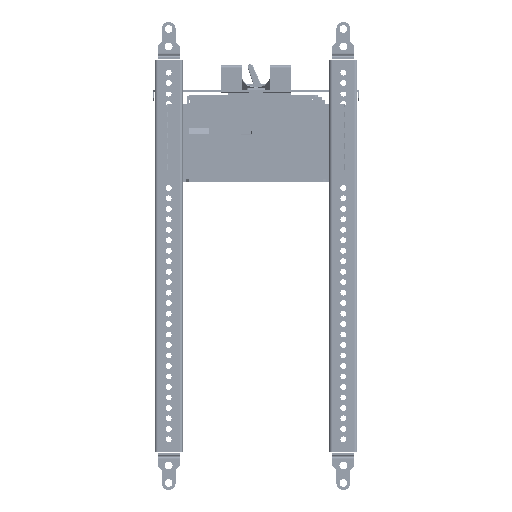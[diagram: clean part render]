
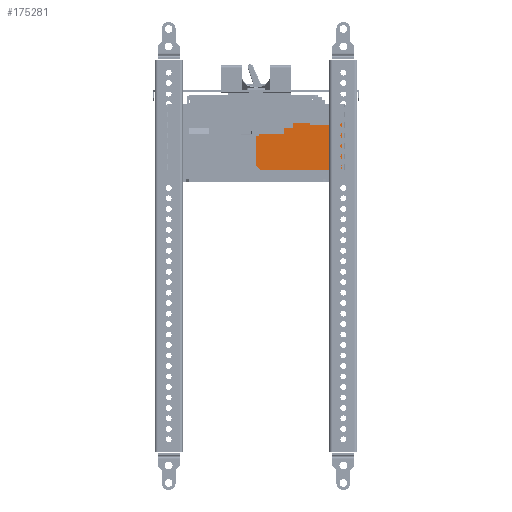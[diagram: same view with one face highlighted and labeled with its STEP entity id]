
A CAD part, left-side view. The second image highlights one B-rep face of the part: STEP entity #175281.
In plain terms, the highlighted planar face has unit normal (-1, 0, 0).
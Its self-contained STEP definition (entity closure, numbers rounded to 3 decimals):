
#144971=CARTESIAN_POINT(' ',(-304.461,1.333,-34.947));
#144972=VERTEX_POINT(' ',#144971);
#145011=CARTESIAN_POINT(' ',(-304.461,1.233,-33.147));
#145012=VERTEX_POINT(' ',#145011);
#145026=CARTESIAN_POINT(' ',(-304.461,1.233,-33.147));
#145031=DIRECTION(' ',(0.,-1.,0.));
#145036=VECTOR(' ',#145031,1.);
#145041=LINE('',#145026,#145036);
#145046=CARTESIAN_POINT(' ',(-304.461,-16.967,-33.147));
#145047=VERTEX_POINT(' ',#145046);
#145051=EDGE_CURVE(' ',#145012,#145047,#145041,.T.);
#145116=CARTESIAN_POINT(' ',(-304.461,-17.067,-29.147));
#145117=VERTEX_POINT(' ',#145116);
#145131=CARTESIAN_POINT(' ',(-304.461,-17.067,-29.147));
#145136=DIRECTION(' ',(0.,-1.,0.));
#145141=VECTOR(' ',#145136,1.);
#145146=LINE('',#145131,#145141);
#145151=CARTESIAN_POINT(' ',(-304.461,-23.467,-29.147));
#145152=VERTEX_POINT(' ',#145151);
#145156=EDGE_CURVE(' ',#145117,#145152,#145146,.T.);
#145221=CARTESIAN_POINT(' ',(-304.461,-23.567,-25.647));
#145222=VERTEX_POINT(' ',#145221);
#145236=CARTESIAN_POINT(' ',(-304.461,-23.567,-25.647));
#145241=DIRECTION(' ',(0.,-1.,0.));
#145246=VECTOR(' ',#145241,1.);
#145251=LINE('',#145236,#145246);
#145256=CARTESIAN_POINT(' ',(-304.461,-35.367,-25.647));
#145257=VERTEX_POINT(' ',#145256);
#145261=EDGE_CURVE(' ',#145222,#145257,#145251,.T.);
#145331=CARTESIAN_POINT(' ',(-304.461,-35.967,-27.147));
#145332=VERTEX_POINT(' ',#145331);
#145346=CARTESIAN_POINT(' ',(-304.461,-35.967,-27.147));
#145351=DIRECTION(' ',(0.,-1.,0.));
#145356=VECTOR(' ',#145351,1.);
#145361=LINE('',#145346,#145356);
#145366=CARTESIAN_POINT(' ',(-304.461,-50.367,-27.147));
#145367=VERTEX_POINT(' ',#145366);
#145371=EDGE_CURVE(' ',#145332,#145367,#145361,.T.);
#145436=CARTESIAN_POINT(' ',(-304.461,-50.467,-21.647));
#145437=VERTEX_POINT(' ',#145436);
#145451=CARTESIAN_POINT(' ',(-304.461,-50.467,-21.647));
#145456=DIRECTION(' ',(0.,-1.,0.));
#145461=VECTOR(' ',#145456,1.);
#145466=LINE('',#145451,#145461);
#145471=CARTESIAN_POINT(' ',(-304.461,-58.467,-21.647));
#145472=VERTEX_POINT(' ',#145471);
#145476=EDGE_CURVE(' ',#145437,#145472,#145466,.T.);
#145736=CARTESIAN_POINT(' ',(-304.461,3.033,-34.947));
#145737=VERTEX_POINT(' ',#145736);
#145751=CARTESIAN_POINT(' ',(-304.461,3.033,-34.947));
#145756=DIRECTION(' ',(0.,-1.,0.));
#145761=VECTOR(' ',#145756,1.);
#145766=LINE('',#145751,#145761);
#145771=EDGE_CURVE(' ',#145737,#144972,#145766,.T.);
#145841=CARTESIAN_POINT(' ',(-304.461,-58.467,-59.147));
#145842=VERTEX_POINT(' ',#145841);
#145936=CARTESIAN_POINT(' ',(-304.461,-58.467,-59.147));
#145941=DIRECTION(' ',(0.,0.,1.));
#145946=VECTOR(' ',#145941,1.);
#145951=LINE('',#145936,#145946);
#145956=EDGE_CURVE(' ',#145842,#145472,#145951,.T.);
#174781=DIRECTION(' ',(-1.,0.,-0.));
#174786=CARTESIAN_POINT(' ',(-304.461,3.033,-59.147));
#174791=DIRECTION(' ',(0.,-1.,0.));
#174796=AXIS2_PLACEMENT_3D(' ',#174786,#174781,#174791);
#174801=PLANE('NONE',#174796);
#174806=CARTESIAN_POINT(' ',(-304.461,1.233,-33.147));
#174811=DIRECTION(' ',(0.,0.,-1.));
#174816=VECTOR(' ',#174811,1.);
#174821=LINE('',#174806,#174816);
#174826=CARTESIAN_POINT(' ',(-304.461,1.233,-34.947));
#174827=VERTEX_POINT(' ',#174826);
#174831=EDGE_CURVE(' ',#145012,#174827,#174821,.T.);
#174836=ORIENTED_EDGE(' ',*,*,#174831,.T.);
#174841=CARTESIAN_POINT(' ',(-304.461,1.233,-34.947));
#174846=DIRECTION(' ',(0.,1.,0.));
#174851=VECTOR(' ',#174846,1.);
#174856=LINE('',#174841,#174851);
#174861=EDGE_CURVE(' ',#174827,#144972,#174856,.T.);
#174866=ORIENTED_EDGE(' ',*,*,#174861,.T.);
#174871=ORIENTED_EDGE(' ',*,*,#145771,.F.);
#174876=CARTESIAN_POINT(' ',(-304.461,3.033,-34.947));
#174881=DIRECTION(' ',(0.,0.,-1.));
#174886=VECTOR(' ',#174881,1.);
#174891=LINE('',#174876,#174886);
#174896=CARTESIAN_POINT(' ',(-304.461,3.033,-54.147));
#174897=VERTEX_POINT(' ',#174896);
#174901=EDGE_CURVE(' ',#145737,#174897,#174891,.T.);
#174906=ORIENTED_EDGE(' ',*,*,#174901,.T.);
#174911=CARTESIAN_POINT(' ',(-304.461,-1.967,-54.147));
#174916=DIRECTION(' ',(-1.,-0.,0.));
#174921=DIRECTION(' ',(0.,1.,0.));
#174926=AXIS2_PLACEMENT_3D(' ',#174911,#174916,#174921);
#174931=CIRCLE('',#174926,5.);
#174936=CARTESIAN_POINT(' ',(-304.461,-1.967,-59.147));
#174937=VERTEX_POINT(' ',#174936);
#174941=EDGE_CURVE(' ',#174897,#174937,#174931,.T.);
#174946=ORIENTED_EDGE(' ',*,*,#174941,.T.);
#174951=CARTESIAN_POINT(' ',(-304.461,-1.967,-59.147));
#174956=DIRECTION(' ',(0.,-1.,0.));
#174961=VECTOR(' ',#174956,1.);
#174966=LINE('',#174951,#174961);
#174971=EDGE_CURVE(' ',#174937,#145842,#174966,.T.);
#174976=ORIENTED_EDGE(' ',*,*,#174971,.T.);
#174981=ORIENTED_EDGE(' ',*,*,#145956,.T.);
#174986=ORIENTED_EDGE(' ',*,*,#145476,.F.);
#174991=CARTESIAN_POINT(' ',(-304.461,-50.467,-21.647));
#174996=DIRECTION(' ',(0.,0.,-1.));
#175001=VECTOR(' ',#174996,1.);
#175006=LINE('',#174991,#175001);
#175011=CARTESIAN_POINT(' ',(-304.461,-50.467,-27.147));
#175012=VERTEX_POINT(' ',#175011);
#175016=EDGE_CURVE(' ',#145437,#175012,#175006,.T.);
#175021=ORIENTED_EDGE(' ',*,*,#175016,.T.);
#175026=CARTESIAN_POINT(' ',(-304.461,-50.367,-27.147));
#175031=DIRECTION(' ',(0.,-1.,0.));
#175036=VECTOR(' ',#175031,1.);
#175041=LINE('',#175026,#175036);
#175046=EDGE_CURVE(' ',#145367,#175012,#175041,.T.);
#175051=ORIENTED_EDGE(' ',*,*,#175046,.F.);
#175056=ORIENTED_EDGE(' ',*,*,#145371,.F.);
#175061=CARTESIAN_POINT(' ',(-304.461,-35.367,-27.147));
#175066=DIRECTION(' ',(0.,-1.,0.));
#175071=VECTOR(' ',#175066,1.);
#175076=LINE('',#175061,#175071);
#175081=CARTESIAN_POINT(' ',(-304.461,-35.367,-27.147));
#175082=VERTEX_POINT(' ',#175081);
#175086=EDGE_CURVE(' ',#175082,#145332,#175076,.T.);
#175091=ORIENTED_EDGE(' ',*,*,#175086,.F.);
#175096=CARTESIAN_POINT(' ',(-304.461,-35.367,-27.147));
#175101=DIRECTION(' ',(0.,0.,1.));
#175106=VECTOR(' ',#175101,1.);
#175111=LINE('',#175096,#175106);
#175116=EDGE_CURVE(' ',#175082,#145257,#175111,.T.);
#175121=ORIENTED_EDGE(' ',*,*,#175116,.T.);
#175126=ORIENTED_EDGE(' ',*,*,#145261,.F.);
#175131=CARTESIAN_POINT(' ',(-304.461,-23.567,-25.647));
#175136=DIRECTION(' ',(0.,0.,-1.));
#175141=VECTOR(' ',#175136,1.);
#175146=LINE('',#175131,#175141);
#175151=CARTESIAN_POINT(' ',(-304.461,-23.567,-29.147));
#175152=VERTEX_POINT(' ',#175151);
#175156=EDGE_CURVE(' ',#145222,#175152,#175146,.T.);
#175161=ORIENTED_EDGE(' ',*,*,#175156,.T.);
#175166=CARTESIAN_POINT(' ',(-304.461,-23.567,-29.147));
#175171=DIRECTION(' ',(0.,1.,0.));
#175176=VECTOR(' ',#175171,1.);
#175181=LINE('',#175166,#175176);
#175186=EDGE_CURVE(' ',#175152,#145152,#175181,.T.);
#175191=ORIENTED_EDGE(' ',*,*,#175186,.T.);
#175196=ORIENTED_EDGE(' ',*,*,#145156,.F.);
#175201=CARTESIAN_POINT(' ',(-304.461,-17.067,-29.147));
#175206=DIRECTION(' ',(0.,0.,-1.));
#175211=VECTOR(' ',#175206,1.);
#175216=LINE('',#175201,#175211);
#175221=CARTESIAN_POINT(' ',(-304.461,-17.067,-33.147));
#175222=VERTEX_POINT(' ',#175221);
#175226=EDGE_CURVE(' ',#145117,#175222,#175216,.T.);
#175231=ORIENTED_EDGE(' ',*,*,#175226,.T.);
#175236=CARTESIAN_POINT(' ',(-304.461,-17.067,-33.147));
#175241=DIRECTION(' ',(0.,1.,0.));
#175246=VECTOR(' ',#175241,1.);
#175251=LINE('',#175236,#175246);
#175256=EDGE_CURVE(' ',#175222,#145047,#175251,.T.);
#175261=ORIENTED_EDGE(' ',*,*,#175256,.T.);
#175266=ORIENTED_EDGE(' ',*,*,#145051,.F.);
#175271=EDGE_LOOP(' ',(#174836,#174866,#174871,#174906,#174946,#174976,#174981,#174986,#175021,#175051,#175056,#175091,#175121,#175126,#175161,#175191,#175196,#175231,#175261,#175266));
#175276=FACE_OUTER_BOUND(' ',#175271,.T.);
#175281=ADVANCED_FACE('NONE',(#175276),#174801,.T.);
